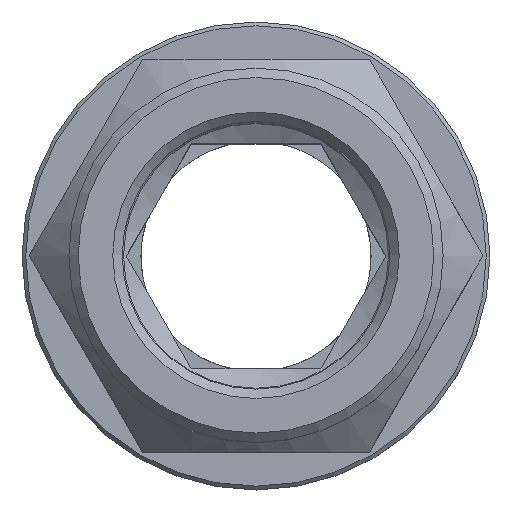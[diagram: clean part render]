
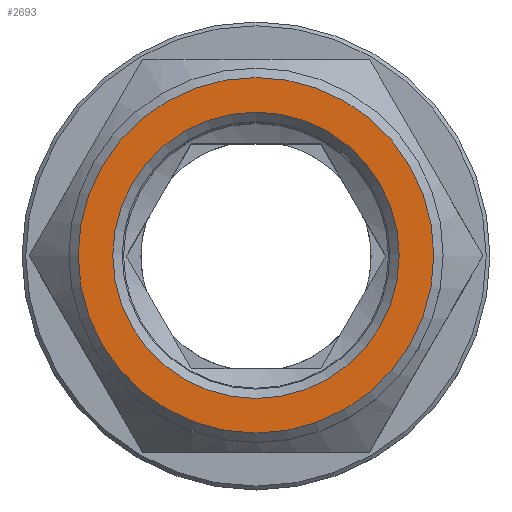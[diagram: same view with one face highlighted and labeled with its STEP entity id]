
A CAD part, top view. The second image highlights one B-rep face of the part: STEP entity #2693.
In plain terms, the highlighted planar face has unit normal (0, 0, 1) as drawn and (0, 1, 0) by its records, which use the part's own axes.
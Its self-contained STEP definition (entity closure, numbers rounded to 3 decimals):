
#724=PLANE('',#2545);
#778=ORIENTED_EDGE('',*,*,#1124,.T.);
#779=ORIENTED_EDGE('',*,*,#1123,.F.);
#985=CIRCLE('',#2544,7.65);
#986=CIRCLE('',#2546,9.5);
#1042=VERTEX_POINT('',#2283);
#1043=VERTEX_POINT('',#2286);
#1123=EDGE_CURVE('',#1042,#1042,#985,.T.);
#1124=EDGE_CURVE('',#1043,#1043,#986,.T.);
#1231=EDGE_LOOP('',(#778));
#1232=EDGE_LOOP('',(#779));
#1349=FACE_BOUND('',#1231,.T.);
#1350=FACE_BOUND('',#1232,.T.);
#1959=DIRECTION('',(0.,1.,0.));
#1960=DIRECTION('',(7.65,0.,0.));
#1961=DIRECTION('',(0.,1.,0.));
#1962=DIRECTION('',(1.,0.,0.));
#1963=DIRECTION('',(0.,1.,0.));
#1964=DIRECTION('',(9.5,0.,0.));
#2283=CARTESIAN_POINT('',(102.83,48.24,0.));
#2284=CARTESIAN_POINT('',(95.18,48.24,0.));
#2285=CARTESIAN_POINT('',(104.68,48.24,0.));
#2286=CARTESIAN_POINT('',(104.68,48.24,0.));
#2287=CARTESIAN_POINT('',(95.18,48.24,0.));
#2544=AXIS2_PLACEMENT_3D('',#2284,#1959,#1960);
#2545=AXIS2_PLACEMENT_3D('',#2285,#1961,#1962);
#2546=AXIS2_PLACEMENT_3D('',#2287,#1963,#1964);
#2693=ADVANCED_FACE('',(#1349,#1350),#724,.T.);
